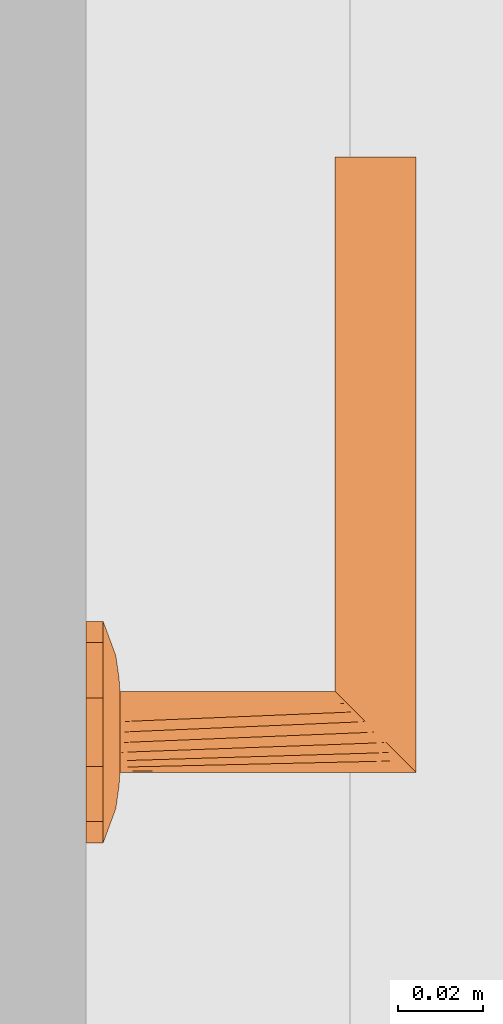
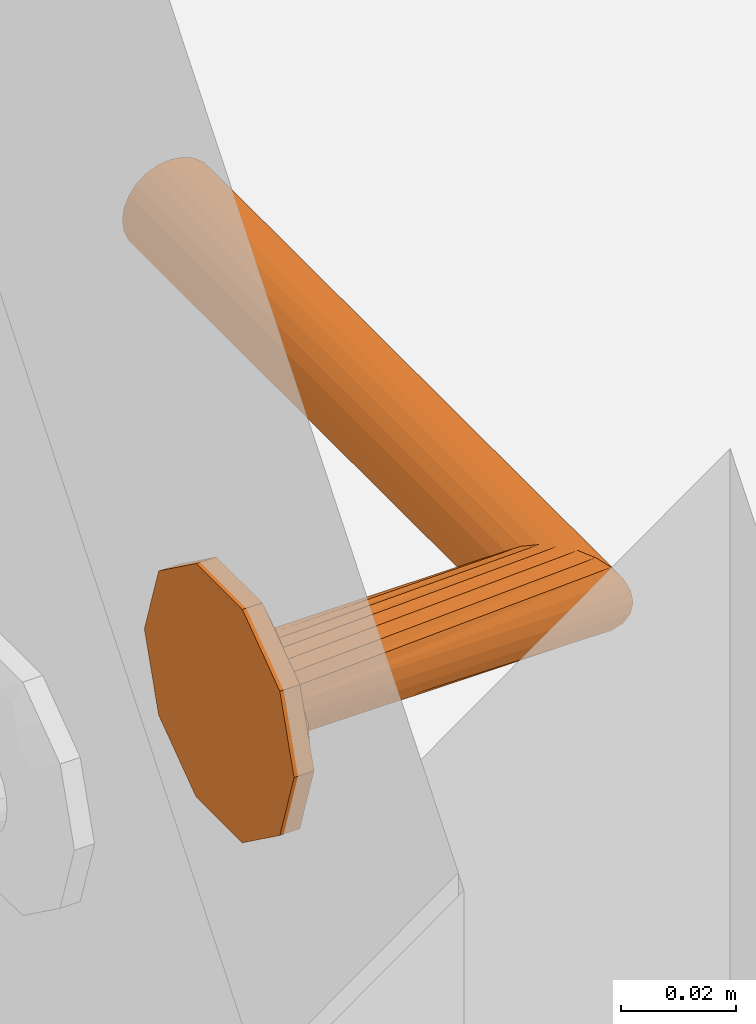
# One storey, part 44 of 68: 1 proxy.
"""IFC2X3 building model written with IfcOpenShell, lengths in millimetres."""

from ifc_helpers import new_model, entity, si_unit, converted_unit, direction, frame, origin, place, context, subcontext, project, spatial, faceted_brep, source, transform, mapped, material, type_object, type_shapes, element, save


model = new_model("IFC2X3")

# Units and contexts
model_context = context("Model", 3, precision=0.01, world=origin(), true_north=direction((6.123233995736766e-17, 1.0)))
plan_context = context("Plan", 3, precision=0.01, world=origin(), true_north=direction((6.123233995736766e-17, 1.0)))
body_context = subcontext(model_context, "Body", "Model", "MODEL_VIEW")
ifc_project = project(units=[si_unit("LENGTHUNIT", "METRE", prefix="MILLI"), converted_unit("PLANEANGLEUNIT", "DEGREE", entity("IfcPlaneAngleMeasure", 0.017453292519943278), si_unit("PLANEANGLEUNIT", "RADIAN"), dimensions=[0, 0, 0, 0, 0, 0, 0]), si_unit("AREAUNIT", "SQUARE_METRE")], contexts=[model_context, plan_context])

# Site, building, storey
site_placement = place(None, origin())
site = spatial("IfcSite", under=ifc_project, at=site_placement, Name="Default", CompositionType="ELEMENT")
building_placement = place(site_placement, origin())
building = spatial("IfcBuilding", under=site, at=building_placement, CompositionType="ELEMENT")
storey_placement = place(building_placement, frame((0.0, 0.0, 6295.0)))
storey = spatial("IfcBuildingStorey", under=building, at=storey_placement, Name="3K", CompositionType="ELEMENT", Elevation=6294.999999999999)

# Proxy
ifc_material = material(Name="<Unnamed>")
building_element_proxy_type = type_object("IfcBuildingElementProxyType", Name="Door-handle_Lever_ABLOY_INOXI_3-19ss-002_RT:Default", PredefinedType="NOTDEFINED", material=ifc_material)
shared_shape = source(origin(), body_context, "Body", "Brep", [
    faceted_brep([(0.0, 0.0, 0.0), (8.034441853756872, 24.72746942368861, 0.0), (14.534441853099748, 20.00494299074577, 0.0), (21.034441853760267, 15.282416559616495, 0.0), (23.51722092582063, 7.641208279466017, 0.0), (26.0, 0.0, 0.0), (23.517220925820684, -7.641208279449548, 0.0), (0.0, 24.72746942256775, 0.0), (-8.034441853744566, 24.727469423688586, 0.0), (-14.534441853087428, 20.00494299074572, 0.0), (-21.03444185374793, 15.282416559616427, 0.0), (-23.517220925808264, 7.641208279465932, 0.0), (-26.0, 0.0, 0.0), (21.034441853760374, -15.282416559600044, 0.0), (14.534441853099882, -20.004942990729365, 0.0), (8.034441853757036, -24.72746942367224, 0.0), (0.0, -24.72746942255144, 0.0), (-23.517220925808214, -7.641208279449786, 0.0), (-21.034441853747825, -15.282416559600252, 0.0), (-14.53444185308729, -20.004942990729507, 0.0), (-8.0344418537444, -24.72746942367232, 0.0), (0.0, 0.0, 8.0), (9.500000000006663, 0.0, 8.0), (8.312500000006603, 2.056810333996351, 8.0), (7.125000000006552, 4.113620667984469, 8.0), (5.937500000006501, 6.170431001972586, 8.0), (4.7500000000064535, 8.227241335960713, 8.0), (2.375000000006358, 8.2272413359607, 8.0), (0.0, 8.227241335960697, 8.0), (-2.3749999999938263, 8.227241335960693, 8.0), (-4.749999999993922, 8.227241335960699, 8.0), (-5.937499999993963, 6.1704310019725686, 8.0), (-7.124999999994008, 4.1136206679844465, 8.0), (-8.312499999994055, 2.0568103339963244, 8.0), (-9.499999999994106, 0.0, 8.0), (-8.31249999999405, -2.0568103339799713, 8.0), (8.312500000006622, -2.0568103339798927, 8.0), (7.125000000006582, -4.113620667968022, 8.0), (5.937500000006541, -6.170431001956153, 8.0), (4.750000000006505, -8.227241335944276, 8.0), (-7.124999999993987, -4.113620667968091, 8.0), (-5.9374999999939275, -6.17043100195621, 8.0), (-4.74999999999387, -8.227241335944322, 8.0), (-2.374999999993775, -8.227241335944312, 8.0), (0.0, -8.227241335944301, 8.0), (2.3750000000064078, -8.227241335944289, 8.0), (-20.6430713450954, 6.292822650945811, 5.929480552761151), (-16.663919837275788, 7.932665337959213, 6.877259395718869), (-22.48876527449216, 10.806469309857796, 4.030771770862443), (-16.764060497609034, 3.8202578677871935, 7.1747985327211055), (-12.504579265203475, 5.179566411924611, 7.774932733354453), (-11.979136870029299, 13.678312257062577, 6.945778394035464), (-11.963426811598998, 8.62529041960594, 7.618343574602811), (-9.07172672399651, 10.31160661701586, 7.7520782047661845), (8.03444185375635, 24.727469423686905, 4.030771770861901), (0.0, 24.72746942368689, 4.030771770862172), (5.758554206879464, 20.96753300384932, 5.871476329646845), (20.643071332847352, 6.292822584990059, 5.929480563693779), (22.488765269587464, 10.806469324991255, 4.03077177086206), (16.66391982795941, 7.9326653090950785, 6.877259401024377), (9.49943163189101, 18.6436835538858, 6.154325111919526), (14.534441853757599, 20.004942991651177, 4.030771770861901), (-14.534441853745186, 20.00494299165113, 4.030771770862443), (-21.034441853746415, 15.282416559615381, 4.030771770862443), (-15.783149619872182, 11.991003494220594, 6.50080018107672), (-23.943088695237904, 6.330522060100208, 4.030771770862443), (-23.012042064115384, 0.0, 5.135401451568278), (12.50457924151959, 5.179566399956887, 7.774932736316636), (11.963426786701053, 8.625290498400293, 7.618343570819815), (16.76406041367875, 3.820257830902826, 7.17479855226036), (15.783149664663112, 11.991003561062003, 6.50080015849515), (23.01204200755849, 0.0, 5.135401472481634), (17.9853516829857, 0.0, 6.993737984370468), (8.661516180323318, 10.478936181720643, 7.768126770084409), (-3.3573143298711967, 21.197247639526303, 5.971427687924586), (-8.03444185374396, 24.727469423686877, 4.030771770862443), (-7.711266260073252, 12.76034452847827, 7.594456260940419), (-5.97325794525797, 16.43013906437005, 7.110979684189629), (-9.94191586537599, 17.061976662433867, 6.522757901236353), (11.979136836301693, 13.678312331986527, 6.945778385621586), (5.953298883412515, 16.50608604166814, 7.096344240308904), (7.511307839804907, 13.358932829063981, 7.529187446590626), (-1.5654593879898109, 15.307443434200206, 7.519134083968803), (-7.784980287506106, 20.476295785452, 5.812837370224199), (2.8135289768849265, 17.763922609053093, 6.993737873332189), (-17.985351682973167, 0.0, 6.993737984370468), (-26.0, 0.0, 4.030771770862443), (-23.51722092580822, 7.641208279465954, 4.030771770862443), (26.0, 0.0, 4.030771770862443), (24.308823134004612, 5.204907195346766, 4.030771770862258), (23.943088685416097, 6.330522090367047, 4.030771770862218), (21.03444185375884, 15.282416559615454, 4.030771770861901), (22.617646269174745, 10.40981439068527, 4.030771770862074), (20.6430713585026, -6.292822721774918, 5.929480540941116), (16.663919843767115, -7.932665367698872, 6.877259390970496), (22.48876527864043, -10.8064692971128, 4.030771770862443), (16.764060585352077, -3.8202579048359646, 7.174798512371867), (12.504579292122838, -5.17956641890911, 7.774932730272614), (11.979136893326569, -13.678312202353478, 6.9457784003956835), (11.963426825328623, -8.62529034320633, 7.618343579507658), (9.071726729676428, -10.311606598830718, 7.752078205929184), (-8.03444185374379, -24.727469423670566, 4.030771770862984), (0.0, -24.727469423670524, 4.030771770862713), (-5.758554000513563, -20.96753314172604, 5.8714763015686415), (-20.643071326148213, -6.292822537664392, 5.929480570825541), (-22.488765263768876, -10.80646934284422, 4.030771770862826), (-16.66391981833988, -7.932665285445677, 6.877259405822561), (-9.499431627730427, -18.643683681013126, 6.154325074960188), (-14.534441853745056, -20.004942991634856, 4.030771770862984), (14.53444185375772, -20.00494299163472, 4.030771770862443), (21.034441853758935, -15.282416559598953, 4.030771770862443), (15.783149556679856, -11.991003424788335, 6.5008002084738), (23.943088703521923, -6.330522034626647, 4.030771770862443), (-12.504579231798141, -5.17956638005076, 7.77493273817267), (-11.963426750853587, -8.625290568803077, 7.618343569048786), (-16.764060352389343, -3.8202577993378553, 7.174798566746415), (-15.783149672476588, -11.991003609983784, 6.500800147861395), (-8.661516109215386, -10.478936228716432, 7.768126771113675), (3.3573144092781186, -21.197247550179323, 5.971427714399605), (8.034441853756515, -24.727469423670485, 4.030771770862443), (7.711266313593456, -12.760344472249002, 7.5944562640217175), (5.9732581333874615, -16.430139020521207, 7.110979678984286), (9.941915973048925, -17.06197655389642, 6.522757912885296), (-11.979136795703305, -13.678312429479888, 6.945778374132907), (-5.953298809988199, -16.506086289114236, 7.096344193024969), (-7.511307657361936, -13.358932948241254, 7.5291874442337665), (1.5654596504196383, -15.3074431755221, 7.519134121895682), (7.784980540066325, -20.476295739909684, 5.812837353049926), (-2.81352881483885, -17.76392263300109, 6.993737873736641), (23.517220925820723, -7.64120827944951, 4.030771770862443), (-24.308823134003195, -5.20490719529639, 4.030771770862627), (-23.943088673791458, -6.330522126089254, 4.030771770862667), (-21.034441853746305, -15.282416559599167, 4.030771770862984), (-22.617646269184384, -10.409814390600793, 4.0307717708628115)], [[[0, 1, 2]], [[0, 2, 3]], [[0, 3, 4]], [[0, 4, 5]], [[0, 5, 6]], [[0, 7, 1]], [[0, 8, 7]], [[0, 9, 8]], [[0, 10, 9]], [[0, 11, 10]], [[0, 12, 11]], [[0, 6, 13]], [[0, 13, 14]], [[0, 14, 15]], [[0, 15, 16]], [[0, 17, 12]], [[0, 18, 17]], [[0, 19, 18]], [[0, 20, 19]], [[0, 16, 20]], [[21, 22, 23]], [[21, 23, 24]], [[21, 24, 25]], [[21, 25, 26]], [[21, 26, 27]], [[21, 27, 28]], [[21, 28, 29]], [[21, 29, 30]], [[21, 30, 31]], [[21, 31, 32]], [[21, 32, 33]], [[21, 33, 34]], [[21, 34, 35]], [[21, 36, 22]], [[21, 37, 36]], [[21, 38, 37]], [[21, 39, 38]], [[21, 35, 40]], [[21, 40, 41]], [[21, 41, 42]], [[21, 42, 43]], [[21, 43, 44]], [[21, 44, 45]], [[21, 45, 39]], [[46, 47, 48]], [[49, 50, 47]], [[33, 32, 50]], [[51, 52, 53]], [[32, 52, 50]], [[49, 47, 46]], [[54, 55, 56]], [[57, 58, 59]], [[60, 61, 54]], [[62, 63, 64]], [[46, 65, 66]], [[67, 59, 68]], [[23, 69, 67]], [[70, 68, 59]], [[23, 22, 69]], [[52, 51, 64]], [[71, 69, 72]], [[73, 25, 68]], [[74, 55, 75]], [[76, 77, 78]], [[70, 61, 79]], [[71, 57, 69]], [[60, 80, 81]], [[51, 76, 78]], [[77, 29, 82]], [[26, 81, 27]], [[74, 83, 77]], [[77, 82, 74]], [[74, 84, 55]], [[34, 49, 85]], [[23, 67, 24]], [[28, 84, 82]], [[74, 82, 84]], [[29, 76, 30]], [[29, 28, 82]], [[49, 34, 33]], [[47, 50, 52]], [[47, 52, 64]], [[50, 49, 33]], [[53, 76, 51]], [[52, 32, 31]], [[49, 66, 85]], [[86, 66, 65]], [[24, 67, 68]], [[83, 78, 77]], [[49, 46, 66]], [[48, 64, 63]], [[46, 48, 87, 65]], [[48, 47, 64]], [[59, 67, 69]], [[26, 73, 81]], [[79, 68, 70]], [[25, 24, 68]], [[71, 88, 89, 90]], [[22, 72, 69]], [[59, 69, 57]], [[79, 61, 60]], [[51, 62, 64]], [[70, 58, 91]], [[90, 57, 71]], [[58, 70, 59]], [[57, 90, 92]], [[79, 60, 81]], [[61, 70, 91]], [[56, 80, 60]], [[79, 81, 73]], [[80, 84, 27]], [[79, 73, 68]], [[27, 84, 28]], [[25, 73, 26]], [[77, 76, 29]], [[31, 30, 53]], [[78, 62, 51]], [[75, 62, 83]], [[78, 83, 62]], [[75, 83, 74]], [[76, 53, 30]], [[31, 53, 52]], [[81, 80, 27]], [[84, 80, 56]], [[84, 56, 55]], [[54, 56, 60]], [[93, 94, 95]], [[96, 97, 94]], [[36, 37, 97]], [[98, 99, 100]], [[37, 99, 97]], [[96, 94, 93]], [[101, 102, 103]], [[104, 105, 106]], [[107, 108, 101]], [[109, 110, 111]], [[93, 112, 71]], [[113, 106, 114]], [[35, 115, 113]], [[116, 114, 106]], [[35, 34, 115]], [[99, 98, 111]], [[66, 115, 85]], [[117, 41, 114]], [[118, 102, 119]], [[120, 121, 122]], [[116, 108, 123]], [[66, 104, 115]], [[107, 124, 125]], [[120, 45, 121]], [[121, 45, 126]], [[42, 125, 43]], [[118, 127, 121]], [[121, 126, 118]], [[118, 128, 102]], [[22, 96, 72]], [[35, 113, 40]], [[44, 128, 126]], [[118, 126, 128]], [[45, 120, 39]], [[45, 44, 126]], [[96, 22, 36]], [[94, 97, 99]], [[94, 99, 111]], [[97, 96, 36]], [[100, 120, 98]], [[99, 37, 38]], [[96, 71, 72]], [[88, 71, 112]], [[40, 113, 114]], [[127, 122, 121]], [[96, 93, 71]], [[95, 111, 110]], [[93, 95, 129, 112]], [[95, 94, 111]], [[106, 113, 115]], [[42, 117, 125]], [[123, 114, 116]], [[41, 40, 114]], [[66, 86, 130, 131]], [[34, 85, 115]], [[106, 115, 104]], [[123, 108, 107]], [[98, 109, 111]], [[116, 105, 132]], [[131, 104, 66]], [[105, 116, 106]], [[104, 131, 133]], [[123, 107, 125]], [[108, 116, 132]], [[103, 124, 107]], [[123, 125, 117]], [[124, 128, 43]], [[123, 117, 114]], [[43, 128, 44]], [[41, 117, 42]], [[38, 39, 100]], [[98, 120, 122]], [[122, 109, 98]], [[119, 109, 127]], [[122, 127, 109]], [[119, 127, 118]], [[120, 100, 39]], [[38, 100, 99]], [[125, 124, 43]], [[128, 124, 103]], [[128, 103, 102]], [[101, 103, 107]], [[9, 10, 63, 62, 75, 8]], [[11, 12, 86, 65, 87, 48, 63, 10]], [[4, 3, 92, 90, 89, 88, 5]], [[3, 91, 58]], [[55, 54, 1, 7, 8, 75]], [[3, 2, 1, 54, 61, 91]], [[13, 6, 5, 88, 112, 129, 95, 110]], [[119, 15, 14, 13, 110, 109]], [[17, 18, 133, 131, 130, 86, 12]], [[18, 132, 105]], [[102, 101, 20, 16, 15, 119]], [[18, 19, 20, 101, 108, 132]], [[57, 92, 58]], [[104, 133, 105]], [[3, 58, 92]], [[18, 105, 133]]]),
    faceted_brep([(0.0, 9.499999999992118, 8.0), (2.4587809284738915, 9.176295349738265, 8.0), (4.7499999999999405, 8.22724133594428, 8.0), (6.717514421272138, 6.7175144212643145, 8.0), (8.227241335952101, 4.749999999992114, 8.0), (9.17629534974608, 2.458780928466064, 8.0), (9.499999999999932, 0.0, 8.0), (9.17629534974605, -2.458780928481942, 8.0), (8.22724133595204, -4.75000000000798, 8.0), (6.717514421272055, -6.717514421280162, 8.0), (4.7499999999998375, -8.227241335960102, 8.0), (2.4587809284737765, -9.176295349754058, 8.0), (0.0, -9.500000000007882, 8.0), (-2.4587809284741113, -9.176295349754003, 8.0), (-4.750000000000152, -8.227241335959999, 8.0), (-6.717514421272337, -6.717514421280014, 8.0), (-8.227241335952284, -4.750000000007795, 8.0), (-9.176295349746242, -2.458780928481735, 8.0), (-9.500000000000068, 0.0, 8.0), (-9.176295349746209, 2.4587809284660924, 8.0), (-8.227241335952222, 4.74999999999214, 8.0), (-6.717514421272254, 6.717514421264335, 8.0), (-4.7500000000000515, 8.227241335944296, 8.0), (-2.4587809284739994, 9.176295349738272, 8.0), (-6.717514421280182, -6.7175144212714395, 61.282485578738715), (-8.227241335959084, -4.7499999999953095, 59.772758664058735), (-9.176295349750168, -2.458780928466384, 58.82370465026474), (-2.4587809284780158, -9.176295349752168, 65.54121907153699), (-4.750000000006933, -8.227241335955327, 63.25000000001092), (-9.500000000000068, 0.0, 58.50000000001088), (0.0, -9.50000000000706, 68.0), (2.4587809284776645, -9.17629534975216, 70.45878092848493), (4.750000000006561, -8.227241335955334, 72.75000000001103), (6.717514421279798, -6.7175144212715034, 74.71751442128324), (9.17629534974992, -2.458780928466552, 77.17629534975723), (8.22724133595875, -4.749999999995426, 76.22724133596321), (9.499999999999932, 0.0, 77.50000000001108), (9.176295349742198, 2.4587809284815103, 77.1762953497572), (8.227241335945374, 4.750000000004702, 76.22724133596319), (4.749999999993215, 8.227241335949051, 72.75000000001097), (6.7175144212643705, 6.717514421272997, 74.7175144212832), (2.4587809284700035, 9.17629534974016, 70.45878092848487), (-2.4587809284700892, 9.176295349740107, 65.54121907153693), (0.0, 9.49999999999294, 68.0), (-6.717514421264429, 6.717514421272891, 61.282485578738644), (-4.749999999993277, 8.227241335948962, 63.250000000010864), (-9.176295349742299, 2.458780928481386, 58.8237046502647), (-8.227241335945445, 4.750000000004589, 59.77275866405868), (-135.0, 9.500000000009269, 68.0), (-135.0, 9.176295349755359, 65.54121907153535), (-135.0, 8.227241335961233, 63.25000000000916), (-135.0, 6.7175144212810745, 61.28248557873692), (-135.0, 4.750000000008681, 59.772758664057), (-135.0, 2.458780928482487, 58.82370465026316), (-135.0, 0.0, 58.50000000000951), (-135.0, -2.458780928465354, 58.823704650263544), (-135.0, -4.749999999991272, 59.772758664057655), (-135.0, -6.717514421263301, 61.28248557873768), (-135.0, -8.227241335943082, 63.250000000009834), (-135.0, -9.17629534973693, 65.54121907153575), (-135.0, -9.499999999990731, 68.0), (-135.0, -9.17629534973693, 70.45878092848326), (-135.0, -8.227241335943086, 72.75000000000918), (-135.0, -6.717514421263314, 74.71751442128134), (-135.0, -4.749999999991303, 76.22724133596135), (-135.0, -2.4587809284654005, 77.17629534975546), (-135.0, 0.0, 77.5000000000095), (-135.0, 2.4587809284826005, 77.17629534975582), (-135.0, 4.750000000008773, 76.22724133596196), (-135.0, 6.717514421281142, 74.71751442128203), (-135.0, 8.227241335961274, 72.75000000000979), (-135.0, 9.176295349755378, 70.4587809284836)], [[[0, 1, 2, 3, 4, 5, 6, 7, 8, 9, 10, 11, 12, 13, 14, 15, 16, 17, 18, 19, 20, 21, 22, 23]], [[15, 24, 25, 16]], [[16, 25, 26, 17]], [[27, 28, 12]], [[12, 28, 13]], [[13, 28, 24]], [[18, 17, 26, 29]], [[24, 15, 14]], [[14, 13, 24]], [[11, 30, 27]], [[31, 9, 32]], [[32, 8, 33]], [[34, 35, 7]], [[7, 35, 33]], [[36, 34, 7, 6]], [[30, 11, 10]], [[11, 27, 12]], [[33, 8, 7]], [[8, 32, 9]], [[31, 10, 9]], [[10, 31, 30]], [[37, 36, 6, 5]], [[37, 5, 38]], [[39, 40, 4]], [[5, 40, 38]], [[41, 39, 3]], [[5, 4, 40]], [[42, 43, 1]], [[2, 1, 43]], [[2, 41, 3]], [[39, 4, 3]], [[2, 43, 41]], [[23, 44, 45]], [[0, 45, 42]], [[19, 18, 29, 46]], [[20, 19, 46, 47]], [[21, 20, 47, 44]], [[23, 22, 44]], [[45, 0, 23]], [[44, 22, 21]], [[1, 0, 42]], [[48, 49, 50, 51, 52, 53, 54, 55, 56, 57, 58, 59, 60, 61, 62, 63, 64, 65, 66, 67, 68, 69, 70, 71]], [[26, 25, 56, 55]], [[29, 26, 55, 54]], [[28, 27, 59, 58]], [[24, 28, 58, 57]], [[25, 24, 57, 56]], [[27, 30, 60, 59]], [[32, 33, 63, 62]], [[31, 32, 62, 61]], [[34, 36, 66, 65]], [[35, 34, 65, 64]], [[33, 35, 64, 63]], [[61, 60, 30, 31]], [[38, 68, 67, 37]], [[37, 67, 66, 36]], [[41, 71, 70, 39]], [[39, 70, 69, 40]], [[40, 69, 68, 38]], [[48, 71, 41, 43]], [[44, 51, 50, 45]], [[45, 50, 49, 42]], [[29, 54, 53, 46]], [[46, 53, 52, 47]], [[47, 52, 51, 44]], [[42, 49, 48, 43]]]),
])
type_shapes(building_element_proxy_type, [shared_shape])
proxy_placement = place(storey_placement, frame((9980.0, 6864.999979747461, 1000.0), z_axis=(1.0, 0.0, 0.0), x_axis=(0.0, -1.0, 0.0)))
element("IfcBuildingElementProxy", 1, at=proxy_placement, inside=storey, type_object=building_element_proxy_type, material=ifc_material, Name="Door-handle_Lever_ABLOY_INOXI_3-19ss-002_RT:Default", ObjectType="Door-handle_Lever_ABLOY_INOXI_3-19ss-002_RT:Default", context=body_context, shape_type="MappedRepresentation", body=[
    mapped(shared_shape, transform((0.0, 0.0, 0.0), scale=1.0)),
])

save(model, "model.ifc")
